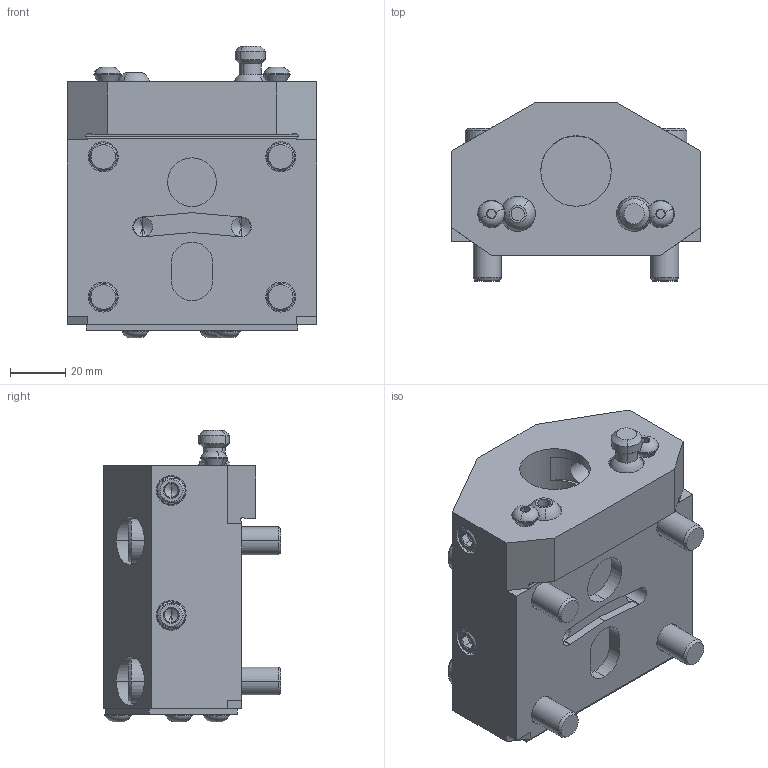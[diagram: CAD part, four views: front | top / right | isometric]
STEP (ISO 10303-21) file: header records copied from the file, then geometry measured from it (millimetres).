
FILE_DESCRIPTION (( 'STEP AP203' ), '1' );
FILE_NAME ('04-0798.STEP', '2022-07-12T16:32:23', ( '' ), ( '' ), 'SwSTEP 2.0', 'SolidWorks 2021', '' );
FILE_SCHEMA (( 'CONFIG_CONTROL_DESIGN' ));
Length unit declared in the file: inch
Products named in the file (12): 04-0798; 20-3137; 57-0026; 25-4142; 44-0001_44-0002; 40-16583; 20-10440A; 58-1627; 20-2077; 10000011185; 22-8749; 40-0003_40-0003
Assembly tree (23 placements, depth 3):
  04-0798
    10000011185
      20-10440A
      22-8749  x2
      25-4142
      58-1627
      57-0026  x2
      40-0003_40-0003  x5
      44-0001_44-0002  x4
      40-16583  x4
      20-3137
      20-2077
Bounding box: 90 x 64.06 x 105.11 mm (x, y, z)
Volume: 299849.5 mm3; surface area: 78437.1 mm2
Topology: 22 solids, 23 shells, 1226 faces, 2939 edges, 1761 vertices
Faces by surface type: cylinder 610, cone 357, plane 225, torus 18, bspline 10, sphere 6
Entity records: 18377 total; most frequent: CARTESIAN_POINT 6413, DIRECTION 2173, ORIENTED_EDGE 2166, EDGE_CURVE 1083, AXIS2_PLACEMENT_3D 845, VERTEX_POINT 669, EDGE_LOOP 514, VECTOR 483
